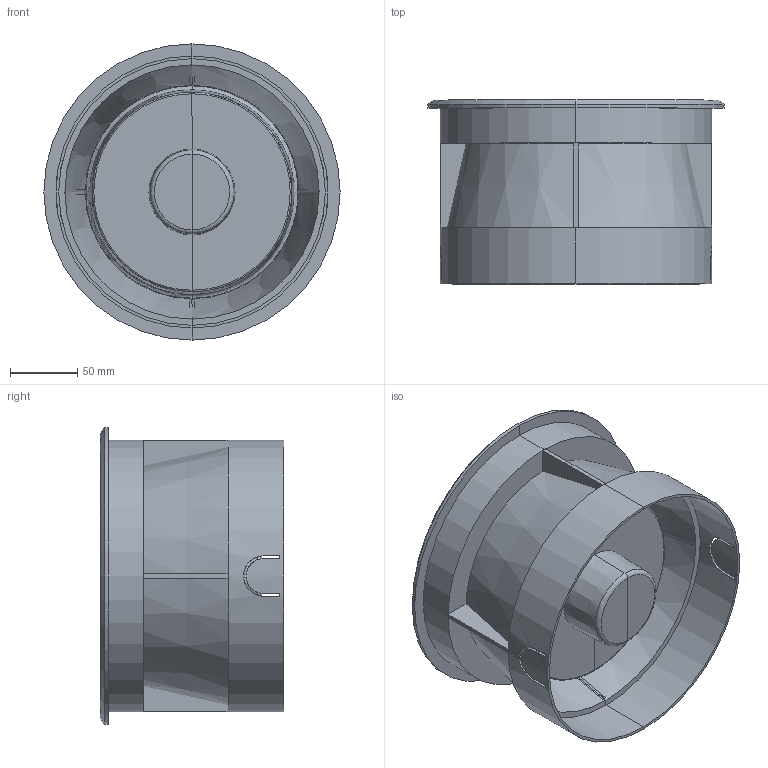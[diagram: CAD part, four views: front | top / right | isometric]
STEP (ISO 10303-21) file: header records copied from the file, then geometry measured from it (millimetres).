
FILE_DESCRIPTION(/* description */ (''),/* implementation_level */ '2;1');
FILE_NAME(/* name */ 'C:\Users\Franco Sartori E\Documents\FARO\DUPLICADO\Modelos\01_Digitalizados\PRIORIZACION 2D\1_SURIA\03_Publicación\70587.stp',/* time_stamp */ '2020-12-16T12:01:55+01:00',/* author */ ('Franco Sartori E'),/* organization */ (''),/* preprocessor_version */ 'ST-DEVELOPER v18.1',/* originating_system */ 'AutoCAD Mechanical',/* authorisation */ '');
FILE_SCHEMA (('AUTOMOTIVE_DESIGN { 1 0 10303 214 3 1 1 }'));
Length unit declared in the file: millimetre
Products named in the file (2): Product; 70586_70587 - Lamp-417132-_3D_
Assembly tree (1 placements, depth 2):
  Product
    70586_70587 - Lamp-417132-_3D_
Bounding box: 220 x 136.5 x 220 mm (x, y, z)
Volume: 1062720 mm3; surface area: 445630.7 mm2
Topology: 7 solids, 8 shells, 176 faces, 384 edges, 222 vertices
Faces by surface type: plane 92, cylinder 54, cone 20, torus 10
Entity records: 5698 total; most frequent: CARTESIAN_POINT 1853, DIRECTION 802, ORIENTED_EDGE 768, EDGE_CURVE 384, AXIS2_PLACEMENT_3D 309, VERTEX_POINT 222, LINE 184, VECTOR 184
